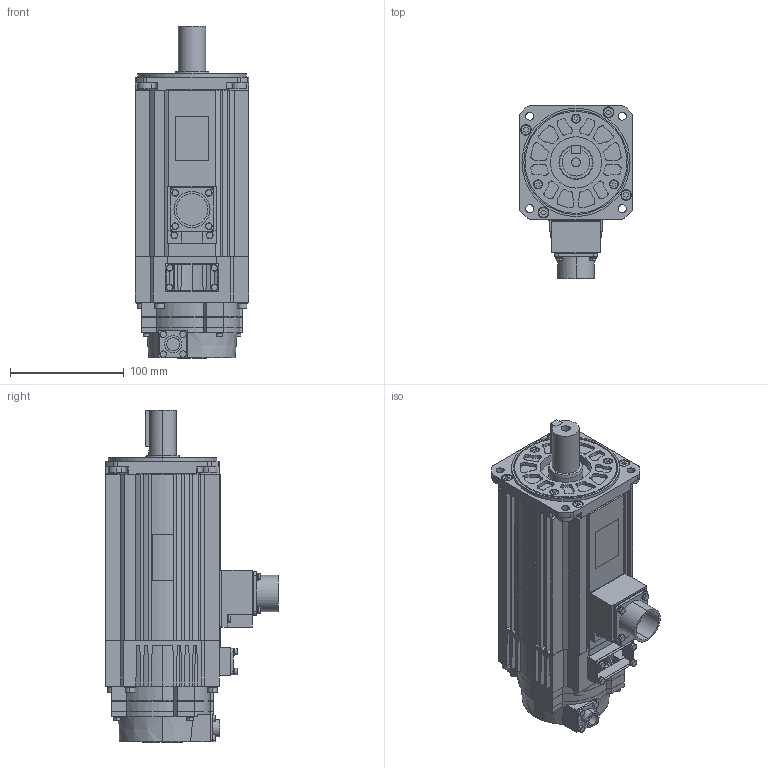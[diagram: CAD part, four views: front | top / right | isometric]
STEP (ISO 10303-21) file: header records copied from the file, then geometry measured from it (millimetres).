
FILE_DESCRIPTION (( 'STEP AP203' ), '1' );
FILE_NAME ('sgmsv_25a_a6c.STEP', '2011-03-20T11:47:16', ( '匠エンジニアリング山之内' ), ( 'TAKUMI-Engniaring' ), 'SwSTEP 2.0', 'SolidWorks 2006303', '' );
FILE_SCHEMA (( 'CONFIG_CONTROL_DESIGN' ));
Length unit declared in the file: millimetre
Products named in the file (3): sgmsv_25a_a6c_base; sgmsv_25a_a6c; sgmsv_25a_a6c_key
Assembly tree (2 placements, depth 2):
  sgmsv_25a_a6c
    sgmsv_25a_a6c_base
    sgmsv_25a_a6c_key
Bounding box: 100 x 151.75 x 291.6 mm (x, y, z)
Volume: 2063443.8 mm3; surface area: 184244 mm2
Topology: 2 solids, 2 shells, 996 faces, 2555 edges, 1670 vertices
Faces by surface type: plane 578, cylinder 395, cone 23
Entity records: 30705 total; most frequent: DIRECTION 5423, CARTESIAN_POINT 5358, ORIENTED_EDGE 5110, EDGE_CURVE 2555, AXIS2_PLACEMENT_3D 1900, VERTEX_POINT 1670, VECTOR 1623, LINE 1623
